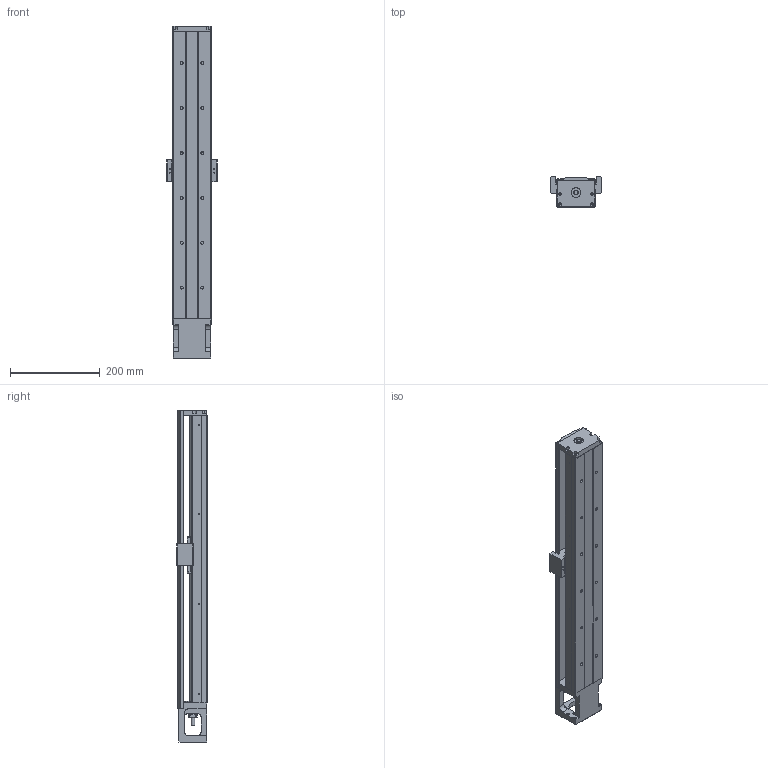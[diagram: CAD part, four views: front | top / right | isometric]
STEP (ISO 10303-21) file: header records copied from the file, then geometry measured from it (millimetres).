
FILE_DESCRIPTION(/* description */ (''),/* implementation_level */ '2;1');
FILE_NAME(/* name */ '46S-640C.stp',/* time_stamp */ '2019-09-05T13:25:48+08:00',/* author */ (''),/* organization */ (''),/* preprocessor_version */ 'ST-DEVELOPER v16',/* originating_system */ 'SIEMENS PLM Software NX 10.0',/* authorisation */ '');
FILE_SCHEMA (('AP203_CONFIGURATION_CONTROLLED_3D_DESIGN_OF_MECHANICAL_PARTS_AND_ASSEMBLIES_MIM_LF { 1 0 10303 403 2 1 2}'));
Length unit declared in the file: millimetre
Products named in the file (1): 0154B620C536ce8f
Bounding box: 112 x 68 x 740 mm (x, y, z)
Volume: 1855231.2 mm3; surface area: 486287.4 mm2
Topology: 7 solids, 18 shells, 718 faces, 1882 edges, 1243 vertices
Faces by surface type: plane 340, cylinder 258, cone 59, bspline 53, torus 8
Full cylindrical faces by diameter (mm): 2 x2, 2.11 x2, 2.15 x8, 2.42 x6, 2.5 x4, 3 x4, 3.2 x4, 3.3 x12, 3.4 x8, 4 x6, 4.2 x4, 4.5 x8, 5 x8, 6 x8, 6.35 x2, 6.6 x12, 6.7 x2, 8 x1, 8.7 x4, 9.6 x1, 10 x3, 11 x12, 12 x1, 14.95 x2, 15 x1, 16 x2, 22 x3, 27.5 x1, 44 x1, 50 x1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
Entity records: 29831 total; most frequent: CARTESIAN_POINT 13508, ORIENTED_EDGE 3242, DIRECTION 3134, EDGE_CURVE 1621, VERTEX_POINT 1166, AXIS2_PLACEMENT_3D 1163, EDGE_LOOP 1013, LINE 808
